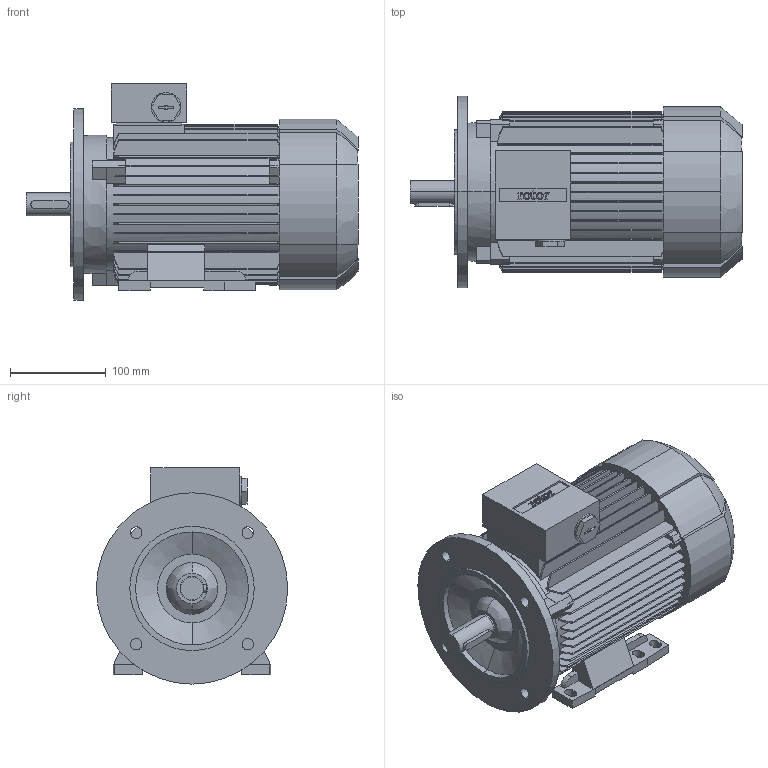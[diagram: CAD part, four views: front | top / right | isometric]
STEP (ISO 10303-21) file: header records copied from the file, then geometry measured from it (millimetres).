
FILE_DESCRIPTION (( 'STEP AP214' ), '1' );
FILE_NAME ('6RN90L06E24 IM2001.STEP', '2014-09-22T07:32:05', ( 'rbc_ict' ), ( 'REGAL' ), 'SwSTEP 2.0', 'SolidWorks 2012', '' );
FILE_SCHEMA (( 'AUTOMOTIVE_DESIGN' ));
Length unit declared in the file: millimetre
Products named in the file (1): 6RN90L06E24 IM2001
Bounding box: 347 x 200 x 226 mm (x, y, z)
Volume: 6110917.4 mm3; surface area: 501775.2 mm2
Topology: 1 solids, 1 shells, 655 faces, 1905 edges, 1269 vertices
Faces by surface type: plane 400, bspline 135, cylinder 116, cone 4
Entity records: 25176 total; most frequent: CARTESIAN_POINT 8371, ORIENTED_EDGE 3810, DIRECTION 3131, EDGE_CURVE 1905, VERTEX_POINT 1269, LINE 1133, VECTOR 1133, AXIS2_PLACEMENT_3D 999
